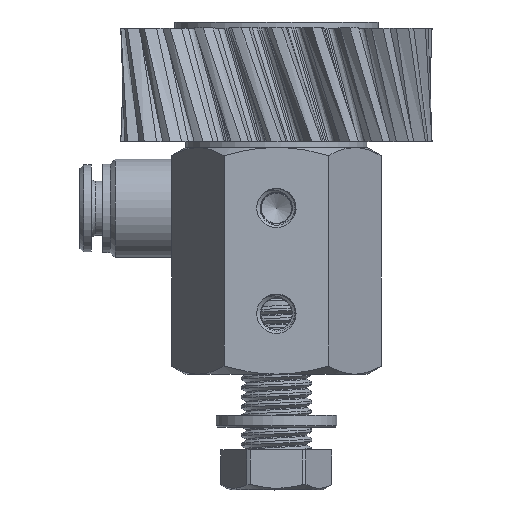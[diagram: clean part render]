
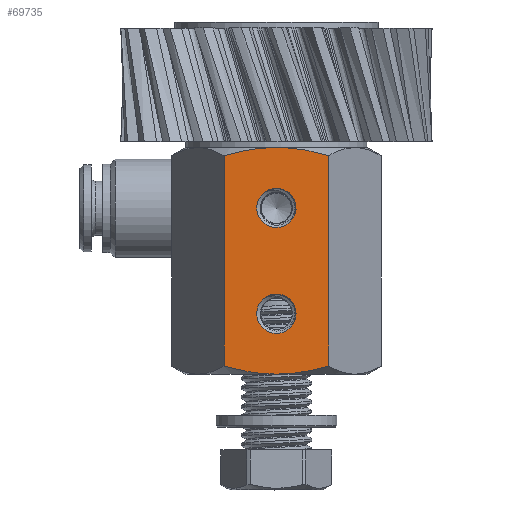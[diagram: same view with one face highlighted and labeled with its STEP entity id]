
A CAD part, top view. The second image highlights one B-rep face of the part: STEP entity #69735.
In plain terms, the highlighted planar face has unit normal (0, 0, 1).
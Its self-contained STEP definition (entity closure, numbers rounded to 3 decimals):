
#356 = ORIENTED_EDGE ( 'NONE', *, *, #70682, .T. ) ;
#1199 = CARTESIAN_POINT ( 'NONE',  ( 0., 30., 12. ) ) ;
#2359 = CARTESIAN_POINT ( 'NONE',  ( 2.354, 29.897, 12. ) ) ;
#2399 = VERTEX_POINT ( 'NONE', #33592 ) ;
#3260 = EDGE_LOOP ( 'NONE', ( #49730 ) ) ;
#3345 = VERTEX_POINT ( 'NONE', #51073 ) ;
#3486 = DIRECTION ( 'NONE',  ( 0., -1., 0. ) ) ;
#6081 = ORIENTED_EDGE ( 'NONE', *, *, #16760, .T. ) ;
#7524 = CARTESIAN_POINT ( 'NONE',  ( 0., 0., 12. ) ) ;
#8292 = CARTESIAN_POINT ( 'NONE',  ( -6.928, 1.072, 12. ) ) ;
#8572 = CARTESIAN_POINT ( 'NONE',  ( -4.663, 29.523, 12. ) ) ;
#9357 = CARTESIAN_POINT ( 'NONE',  ( -6.928, 28.928, 12. ) ) ;
#9681 = B_SPLINE_CURVE_WITH_KNOTS ( 'NONE', 3,
 ( #43030, #48529, #54395, #2359, #14091, #1199 ),
 .UNSPECIFIED., .F., .F.,
 ( 4, 2, 4 ),
 ( 0.015, 0.019, 0.022 ),
 .UNSPECIFIED. ) ;
#10176 = ORIENTED_EDGE ( 'NONE', *, *, #48936, .F. ) ;
#10659 = CARTESIAN_POINT ( 'NONE',  ( 6.928, 1.072, 12. ) ) ;
#10978 = VERTEX_POINT ( 'NONE', #29975 ) ;
#11173 = AXIS2_PLACEMENT_3D ( 'NONE', #33671, #57112, #57510 ) ;
#11345 = LINE ( 'NONE', #59804, #12683 ) ;
#12683 = VECTOR ( 'NONE', #76633, 1000. ) ;
#14091 = CARTESIAN_POINT ( 'NONE',  ( 1.186, 30., 12. ) ) ;
#15130 = EDGE_CURVE ( 'NONE', #24035, #30332, #11345, .T. ) ;
#15740 = CARTESIAN_POINT ( 'NONE',  ( 2.353, 0.124, 12. ) ) ;
#16760 = EDGE_CURVE ( 'NONE', #24035, #10978, #9681, .T. ) ;
#19092 = ORIENTED_EDGE ( 'NONE', *, *, #58271, .T. ) ;
#19528 = B_SPLINE_CURVE_WITH_KNOTS ( 'NONE', 3,
 ( #21982, #57577, #45471, #15740, #28251, #39593, #46242, #10659 ),
 .UNSPECIFIED., .F., .F.,
 ( 4, 2, 2, 4 ),
 ( 0.022, 0.024, 0.026, 0.029 ),
 .UNSPECIFIED. ) ;
#19622 = CARTESIAN_POINT ( 'NONE',  ( -5.8, 0.746, 12. ) ) ;
#20760 = PLANE ( 'NONE',  #11173 ) ;
#21062 = CARTESIAN_POINT ( 'NONE',  ( 0., 30., 12. ) ) ;
#21543 = FACE_BOUND ( 'NONE', #3260, .T. ) ;
#21853 = CARTESIAN_POINT ( 'NONE',  ( -6.928, 1.072, 12. ) ) ;
#21982 = CARTESIAN_POINT ( 'NONE',  ( 0., 0., 12. ) ) ;
#22797 = ORIENTED_EDGE ( 'NONE', *, *, #38967, .T. ) ;
#24035 = VERTEX_POINT ( 'NONE', #39933 ) ;
#24734 = CARTESIAN_POINT ( 'NONE',  ( -4.661, 0.477, 12. ) ) ;
#26161 = CARTESIAN_POINT ( 'NONE',  ( -5.801, 29.254, 12. ) ) ;
#27412 = FACE_OUTER_BOUND ( 'NONE', #51903, .T. ) ;
#28251 = CARTESIAN_POINT ( 'NONE',  ( 2.933, 0.197, 12. ) ) ;
#29975 = CARTESIAN_POINT ( 'NONE',  ( 0., 30., 12. ) ) ;
#30332 = VERTEX_POINT ( 'NONE', #71457 ) ;
#31386 = DIRECTION ( 'NONE',  ( 1., 0., 0. ) ) ;
#33592 = CARTESIAN_POINT ( 'NONE',  ( 0., 0., 12. ) ) ;
#33671 = CARTESIAN_POINT ( 'NONE',  ( 6.928, 30., 12. ) ) ;
#37210 = FACE_BOUND ( 'NONE', #76581, .T. ) ;
#38967 = EDGE_CURVE ( 'NONE', #2399, #30332, #19528, .T. ) ;
#39049 = CARTESIAN_POINT ( 'NONE',  ( -0.593, 30., 12. ) ) ;
#39593 = CARTESIAN_POINT ( 'NONE',  ( 4.663, 0.477, 12. ) ) ;
#39933 = CARTESIAN_POINT ( 'NONE',  ( 6.928, 28.928, 12. ) ) ;
#41631 = B_SPLINE_CURVE_WITH_KNOTS ( 'NONE', 3,
 ( #21062, #39049, #57017, #61740, #50406, #8572, #26161, #9357 ),
 .UNSPECIFIED., .F., .F.,
 ( 4, 2, 2, 4 ),
 ( 0.022, 0.024, 0.026, 0.029 ),
 .UNSPECIFIED. ) ;
#43030 = CARTESIAN_POINT ( 'NONE',  ( 6.928, 28.928, 12. ) ) ;
#43402 = CIRCLE ( 'NONE', #75859, 2.6 ) ;
#45041 = ORIENTED_EDGE ( 'NONE', *, *, #51025, .T. ) ;
#45471 = CARTESIAN_POINT ( 'NONE',  ( 1.183, 0.026, 12. ) ) ;
#46148 = VERTEX_POINT ( 'NONE', #21853 ) ;
#46242 = CARTESIAN_POINT ( 'NONE',  ( 5.801, 0.746, 12. ) ) ;
#47956 = CARTESIAN_POINT ( 'NONE',  ( 0., 22., 12. ) ) ;
#48529 = CARTESIAN_POINT ( 'NONE',  ( 5.8, 29.254, 12. ) ) ;
#48581 = B_SPLINE_CURVE_WITH_KNOTS ( 'NONE', 3,
 ( #8292, #19622, #24734, #72430, #67712, #7524 ),
 .UNSPECIFIED., .F., .F.,
 ( 4, 2, 4 ),
 ( 0.015, 0.019, 0.022 ),
 .UNSPECIFIED. ) ;
#48936 = EDGE_CURVE ( 'NONE', #61630, #61630, #43402, .T. ) ;
#49730 = ORIENTED_EDGE ( 'NONE', *, *, #67004, .T. ) ;
#50406 = CARTESIAN_POINT ( 'NONE',  ( -2.933, 29.803, 12. ) ) ;
#51025 = EDGE_CURVE ( 'NONE', #10978, #51040, #41631, .T. ) ;
#51040 = VERTEX_POINT ( 'NONE', #62905 ) ;
#51073 = CARTESIAN_POINT ( 'NONE',  ( -2.6, 22., 12. ) ) ;
#51903 = EDGE_LOOP ( 'NONE', ( #6081, #45041, #19092, #356, #22797, #77229 ) ) ;
#52422 = VECTOR ( 'NONE', #3486, 1000. ) ;
#52466 = CIRCLE ( 'NONE', #59947, 2.6 ) ;
#54395 = CARTESIAN_POINT ( 'NONE',  ( 4.661, 29.523, 12. ) ) ;
#54832 = DIRECTION ( 'NONE',  ( 0., 0., 1. ) ) ;
#56146 = CARTESIAN_POINT ( 'NONE',  ( 2.6, 8., 12. ) ) ;
#56660 = LINE ( 'NONE', #57445, #52422 ) ;
#57017 = CARTESIAN_POINT ( 'NONE',  ( -1.183, 29.974, 12. ) ) ;
#57112 = DIRECTION ( 'NONE',  ( 0., 0., 1. ) ) ;
#57445 = CARTESIAN_POINT ( 'NONE',  ( -6.928, 30., 12. ) ) ;
#57510 = DIRECTION ( 'NONE',  ( 1., 0., 0. ) ) ;
#57577 = CARTESIAN_POINT ( 'NONE',  ( 0.593, 0., 12. ) ) ;
#58271 = EDGE_CURVE ( 'NONE', #51040, #46148, #56660, .T. ) ;
#59804 = CARTESIAN_POINT ( 'NONE',  ( 6.928, 30., 12. ) ) ;
#59947 = AXIS2_PLACEMENT_3D ( 'NONE', #47956, #65166, #71791 ) ;
#61630 = VERTEX_POINT ( 'NONE', #56146 ) ;
#61740 = CARTESIAN_POINT ( 'NONE',  ( -2.353, 29.876, 12. ) ) ;
#62905 = CARTESIAN_POINT ( 'NONE',  ( -6.928, 28.928, 12. ) ) ;
#65166 = DIRECTION ( 'NONE',  ( 0., 0., -1. ) ) ;
#66192 = CARTESIAN_POINT ( 'NONE',  ( 0., 8., 12. ) ) ;
#67004 = EDGE_CURVE ( 'NONE', #3345, #3345, #52466, .T. ) ;
#67712 = CARTESIAN_POINT ( 'NONE',  ( -1.186, 0., 12. ) ) ;
#69735 = ADVANCED_FACE ( 'NONE', ( #37210, #21543, #27412 ), #20760, .T. ) ;
#70682 = EDGE_CURVE ( 'NONE', #46148, #2399, #48581, .T. ) ;
#71457 = CARTESIAN_POINT ( 'NONE',  ( 6.928, 1.072, 12. ) ) ;
#71791 = DIRECTION ( 'NONE',  ( -1., 0., 0. ) ) ;
#72430 = CARTESIAN_POINT ( 'NONE',  ( -2.354, 0.103, 12. ) ) ;
#75859 = AXIS2_PLACEMENT_3D ( 'NONE', #66192, #54832, #31386 ) ;
#76581 = EDGE_LOOP ( 'NONE', ( #10176 ) ) ;
#76633 = DIRECTION ( 'NONE',  ( 0., -1., 0. ) ) ;
#77229 = ORIENTED_EDGE ( 'NONE', *, *, #15130, .F. ) ;
